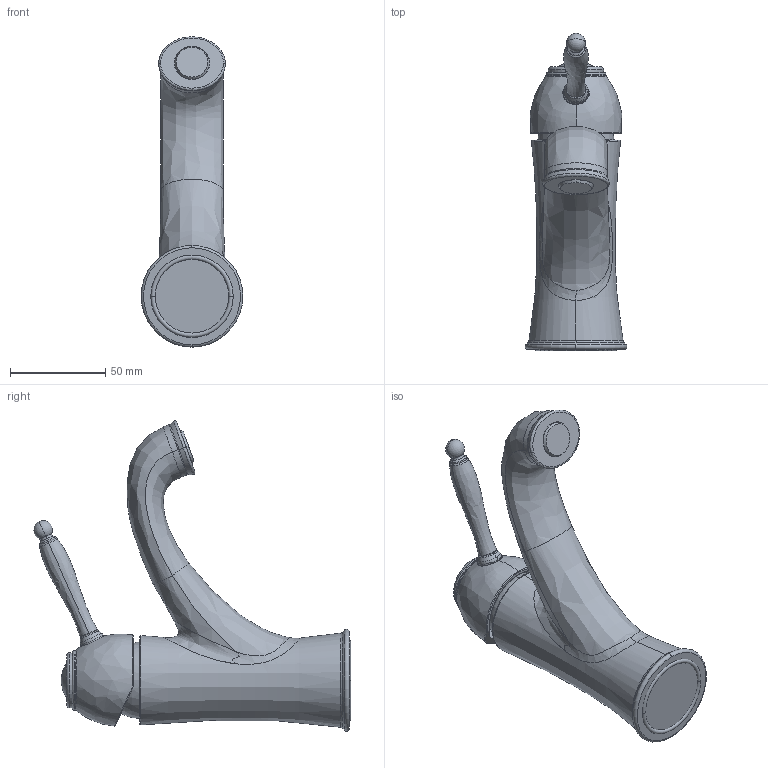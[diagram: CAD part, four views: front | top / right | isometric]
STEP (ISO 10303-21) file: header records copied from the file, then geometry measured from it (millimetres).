
FILE_DESCRIPTION((''),'2;1');
FILE_NAME('37038--00','2026-09-10T11:18:33',('clra1'),(''),'CREO PARAMETRIC BY PTC INC, 2022244','CREO PARAMETRIC BY PTC INC, 2022244','');
FILE_SCHEMA(('CONFIG_CONTROL_DESIGN'));
Length unit declared in the file: millimetre
Products named in the file (1): 37038--00
Bounding box: 53.49 x 166.69 x 163.09 mm (x, y, z)
Surface area: 47919.7 mm2 (no closed solid volume)
Topology: 0 solids, 24 shells, 360 faces, 1451 edges, 1073 vertices
Faces by surface type: plane 137, bspline 117, cylinder 44, torus 34, sphere 10, cone 8, revolution 6, extrusion 4
Entity records: 22875 total; most frequent: CARTESIAN_POINT 12219, ORIENTED_EDGE 2152, DIRECTION 1794, EDGE_CURVE 1447, VERTEX_POINT 1073, VECTOR 854, LINE 850, AXIS2_PLACEMENT_3D 467
